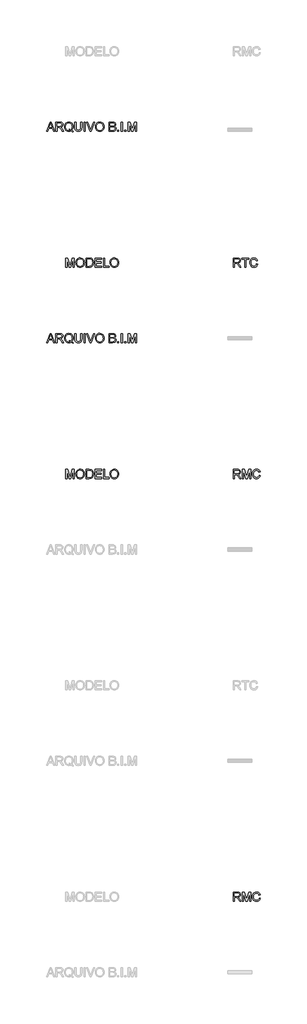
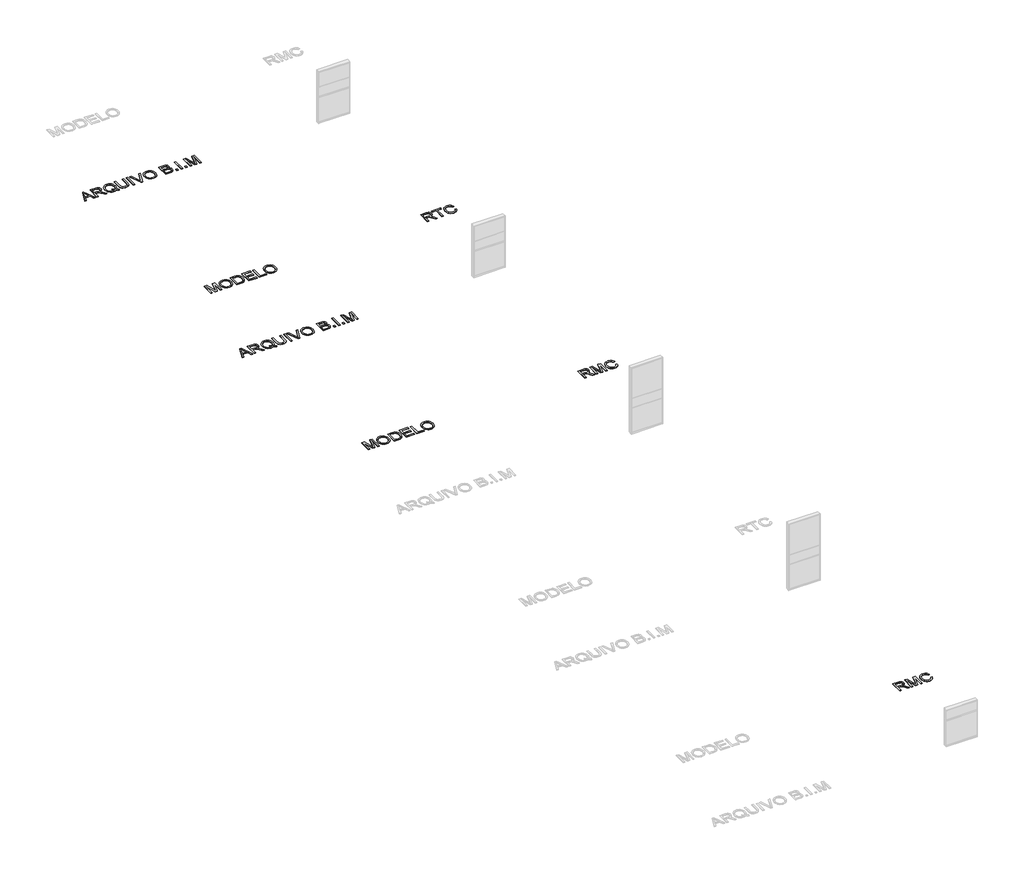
# One storey, part 12 of 15: 7 proxies.
"""IFC4 building model written with IfcOpenShell, lengths in millimetres."""

from ifc_helpers import new_model, si_unit, origin, origin_with_axes, place, context, project, spatial, polyline, outline, extrude, element, save

model = new_model("IFC4")

# Units and contexts
model_context = context("Model", 3, world=origin())
ifc_project = project(units=[si_unit("LENGTHUNIT", "METRE", prefix="MILLI")], contexts=[model_context])

# Site, building, storey
site = spatial("IfcSite", under=ifc_project)
building = spatial("IfcBuilding", under=site)
storey = spatial("IfcBuildingStorey", under=building, Name="Marelli - Linha REASONS - Planta Baixa", Elevation=0.0)

# Proxies
placement = place(None, origin())
element("IfcBuildingElementProxy", 1, Name="300mm Arial", ObjectType="300mm Arial", at=placement, inside=storey, context=model_context, shape_type="SweptSolid", body=[
    extrude(outline(polyline([(9390.580402, -28280.5663201), (9510.8778144, -27979.1973896), (9542.9571244, -27979.1973896), (9663.2545368, -28280.5663201), (9623.449705, -28280.5663201), (9588.9423738, -28186.3885293), (9464.8189886, -28186.3885293), (9430.3852339, -28280.5663201), (9390.580402, -28280.5663201)]), holes=[polyline([(9478.6513517, -28148.717413), (9575.1835872, -28148.717413), (9548.0338959, -28074.6259792), (9526.9174694, -28016.8685059), (9508.1554877, -28068.1512561), (9478.6513517, -28148.717413)])]), origin_with_axes(), (0.0, 0.0, 1.0), 10.0),
    extrude(outline(polyline([(9703.5008271, -28280.5663201), (9703.5008271, -27979.1973896), (9833.3631714, -27979.1973896), (9868.2659757, -27981.2299376), (9893.6590304, -27987.3275817), (9912.2186771, -27998.5847708), (9926.6212572, -28016.0959537), (9935.8642923, -28037.8101885), (9938.945304, -28061.6765329), (9933.8409413, -28091.3646099), (9918.5278533, -28115.9759154), (9906.9280741, -28126.0052983), (9892.5461874, -28134.0205273), (9855.4360911, -28144.0085235), (9876.8468232, -28160.1217548), (9907.3810288, -28198.8965171), (9957.6337094, -28280.5663201), (9913.855752, -28280.5663201), (9874.6395313, -28218.0999573), (9846.3126176, -28176.750021), (9826.4102017, -28157.2154871), (9808.4943485, -28150.0417882), (9786.642158, -28148.717413), (9741.1719434, -28148.717413), (9741.1719434, -28280.5663201), (9703.5008271, -28280.5663201)]), holes=[polyline([(9741.1719434, -28111.0462967), (9825.4904967, -28111.0462967), (9849.706329, -28109.7127245), (9868.4959019, -28105.7120078), (9882.6409647, -28098.7774322), (9892.9232664, -28088.6422832), (9899.1864574, -28076.3826157), (9901.2741877, -28063.0744845), (9897.2918651, -28044.6987789), (9885.3448973, -28029.8915286), (9864.7894908, -28020.1242616), (9834.9818522, -28016.8685059), (9741.1719434, -28016.8685059), (9741.1719434, -28111.0462967)])]), origin_with_axes(), (0.0, 0.0, 1.0), 10.0),
    extrude(outline(polyline([(10231.2643374, -28244.4403081), (10255.5997314, -28263.036743), (10277.9853508, -28275.8574305), (10267.8318077, -28303.4485802), (10236.7641732, -28289.0460001), (10205.8069033, -28268.205485), (10170.9500843, -28281.0077785), (10132.5983863, -28285.2752096), (10094.0627473, -28280.3547879), (10059.2427164, -28265.5935229), (10030.0788713, -28241.9203165), (10008.5117893, -28210.2640708), (9995.185264, -28172.3630282), (9990.7430889, -28129.9554312), (9995.176067, -28087.511046), (10008.4750011, -28049.0581805), (10029.9593096, -28016.9512794), (10058.9484108, -27993.5447874), (10093.639683, -27979.2525719), (10132.2305043, -27974.4885001), (10171.1248282, -27979.3629365), (10205.9908443, -27993.9862458), (10234.9339603, -28017.3835407), (10256.0595839, -28048.5799339), (10268.9722419, -28085.9199564), (10273.2764612, -28127.7481393), (10270.6644991, -28162.5313819), (10262.8286126, -28193.5990164), (10249.7136194, -28220.9142546), (10231.2643374, -28244.4403081)]), holes=[polyline([(10142.9726585, -28194.3347804), (10174.6472983, -28206.3093393), (10200.215097, -28222.9559996), (10215.6983305, -28205.4816049), (10226.7577829, -28184.1076609), (10233.3934544, -28158.8341679), (10235.6053449, -28129.6611256), (10232.478348, -28096.5057608), (10223.0973571, -28067.8201623), (10207.6922985, -28044.3308969), (10186.4930986, -28026.7645316), (10160.934497, -28015.8108452), (10132.4512335, -28012.1596164), (10110.966925, -28014.0059242), (10091.3956028, -28019.5448474), (10073.7372671, -28028.7763863), (10057.9919177, -28041.7005406), (10045.0516685, -28058.2897193), (10035.8086334, -28078.5163313), (10030.2628123, -28102.3803764), (10028.4142052, -28129.8818548), (10030.2421189, -28156.6659634), (10035.7258599, -28180.1437324), (10044.8654282, -28200.3151621), (10057.6608239, -28217.1802523), (10073.2981079, -28230.4906827), (10090.9633415, -28239.9981331), (10110.6565245, -28245.7026032), (10132.3776571, -28247.6040933), (10153.2917485, -28245.6727128), (10172.918253, -28239.8785714), (10153.6228423, -28229.853787), (10133.2605739, -28223.1767288), (10142.9726585, -28194.3347804)])]), origin_with_axes(), (0.0, 0.0, 1.0), 10.0),
    extrude(outline(polyline([(10527.5564963, -27979.1973896), (10565.2276126, -27979.1973896), (10565.2276126, -28153.0584205), (10562.6708327, -28193.7737604), (10555.0004931, -28225.1265034), (10540.6714894, -28249.3147446), (10518.1387172, -28268.5365788), (10487.3469942, -28281.0905519), (10448.2411381, -28285.2752096), (10409.9906077, -28281.6331779), (10379.4104168, -28270.7070826), (10356.4913685, -28252.8740029), (10341.2242657, -28228.5110178), (10332.6434182, -28195.8338995), (10329.7831357, -28153.0584205), (10329.7831357, -27979.1973896), (10367.454252, -27979.1973896), (10367.454252, -28151.7340454), (10369.3120561, -28185.588386), (10374.8854683, -28209.1604248), (10384.9838291, -28225.4851883), (10400.4164788, -28237.597703), (10420.5396239, -28245.1024957), (10444.709471, -28247.6040933), (10483.0243808, -28242.6560805), (10497.3671801, -28236.4710644), (10508.500209, -28227.812042), (10516.8373347, -28215.6351479), (10522.7924245, -28198.8965171), (10527.5564963, -28151.7340454), (10527.5564963, -27979.1973896)])), origin_with_axes(), (0.0, 0.0, 1.0), 10.0),
    extrude(outline(polyline([(10635.8609557, -28280.5663201), (10635.8609557, -27979.1973896), (10673.532072, -27979.1973896), (10673.532072, -28280.5663201), (10635.8609557, -28280.5663201)])), origin_with_axes(), (0.0, 0.0, 1.0), 10.0),
    extrude(outline(polyline([(10837.9017474, -28280.5663201), (10717.972217, -27979.1973896), (10758.2920837, -27979.1973896), (10838.563935, -28196.3213432), (10854.8243192, -28245.2496485), (10870.8639742, -28196.3213432), (10951.3565547, -27979.1973896), (10991.6764214, -27979.1973896), (10876.8236625, -28280.5663201), (10837.9017474, -28280.5663201)])), origin_with_axes(), (0.0, 0.0, 1.0), 10.0),
    extrude(outline(polyline([(11012.5721187, -28133.8549804), (11015.0829134, -28098.5061192), (11022.6152972, -28067.213157), (11035.1692703, -28039.9760937), (11052.7448326, -28016.7949295), (11074.288922, -27998.2858666), (11098.7484761, -27985.0651074), (11126.1234951, -27977.1326519), (11156.4139789, -27974.4885001), (11195.9428992, -27979.454907), (11231.3883295, -27994.3541278), (11260.8188891, -28018.1376988), (11282.3031976, -28049.7571563), (11295.4365848, -28087.68579), (11299.8143806, -28130.3968896), (11295.2066586, -28173.6782064), (11281.3834926, -28212.140269), (11259.1082378, -28243.8149088), (11229.1442493, -28266.733957), (11194.0023217, -28280.6398965), (11156.1932497, -28285.2752096), (11116.057324, -28280.1524528), (11080.4095587, -28264.7841825), (11051.0525754, -28240.5591531), (11029.7889961, -28208.8661192), (11016.8763381, -28172.3998164), (11012.5721187, -28133.8549804)]), holes=[polyline([(11050.2432351, -28134.2228624), (11052.126331, -28159.1974513), (11057.7756189, -28181.3669401), (11067.1910987, -28200.7313286), (11080.3727705, -28217.2906169), (11096.3963306, -28230.5527628), (11114.3374757, -28240.0257242), (11134.1962056, -28245.709501), (11155.9725205, -28247.6040933), (11178.1213158, -28245.6911069), (11198.2145706, -28239.9521478), (11216.2522846, -28230.3872159), (11232.2344581, -28216.9963113), (11245.3195608, -28200.0875351), (11254.6660627, -28179.9689885), (11260.2739639, -28156.6406715), (11262.1432643, -28130.102584), (11258.9426909, -28096.7540812), (11249.3409708, -28067.9305269), (11233.5864244, -28044.358488), (11211.9273719, -28026.7645316), (11185.7985532, -28015.8108452), (11156.6347081, -28012.1596164), (11135.6148506, -28013.9185522), (11116.1125063, -28019.1953595), (11098.1276752, -28027.9900385), (11081.6603574, -28040.302589), (11067.9153664, -28056.7262208), (11058.0975156, -28077.8541437), (11052.2068052, -28103.6863575), (11050.2432351, -28134.2228624)])]), origin_with_axes(), (0.0, 0.0, 1.0), 10.0),
    extrude(outline(polyline([(11469.334404, -28280.5663201), (11469.334404, -27979.1973896), (11584.3343157, -27979.1973896), (11615.9629702, -27981.4138786), (11640.6570491, -27988.0633457), (11659.5845778, -27999.3113377), (11673.9135815, -28015.3234015), (11682.9358874, -28034.1589597), (11685.9433227, -28053.8774346), (11683.414134, -28072.0232141), (11675.8265679, -28089.0837416), (11663.125442, -28104.0105535), (11645.2555741, -28115.7551862), (11666.6019268, -28126.9020107), (11682.3748674, -28143.8613707), (11692.1145432, -28165.5112261), (11695.3611018, -28190.7295368), (11693.1446128, -28211.7447958), (11686.4951457, -28231.2333445), (11676.5715289, -28247.8064284), (11664.5325906, -28260.0752929), (11649.7897196, -28268.9596431), (11631.7543048, -28275.3791839), (11583.4513989, -28280.5663201), (11469.334404, -28280.5663201)]), holes=[polyline([(11507.0055203, -28101.6285176), (11575.7994534, -28101.6285176), (11615.9721672, -28098.3911561), (11630.0344565, -28092.8085468), (11640.1420143, -28084.4484284), (11646.2396584, -28073.4395597), (11648.2722064, -28059.9106994), (11646.3776141, -28046.7773121), (11640.6938373, -28035.3361821), (11631.4783933, -28026.4058467), (11618.9887996, -28020.8048433), (11570.575529, -28016.8685059), (11507.0055203, -28016.8685059), (11507.0055203, -28101.6285176)]), polyline([(11507.0055203, -28242.8952038), (11584.2607393, -28242.8952038), (11612.2197709, -28241.4236758), (11635.8745832, -28233.2199073), (11651.5463562, -28216.4812765), (11656.1540782, -28204.6538704), (11657.6899855, -28191.0974188), (11655.8873637, -28175.3520694), (11650.4794984, -28161.814012), (11641.0341282, -28151.2282076), (11627.1189917, -28144.3396173), (11607.4097138, -28140.5596298), (11580.5819193, -28139.2996339), (11507.0055203, -28139.2996339), (11507.0055203, -28242.8952038)])]), origin_with_axes(), (0.0, 0.0, 1.0), 10.0),
    extrude(outline(polyline([(11751.8677763, -28280.5663201), (11751.8677763, -28242.8952038), (11789.5388926, -28242.8952038), (11789.5388926, -28280.5663201), (11751.8677763, -28280.5663201)])), origin_with_axes(), (0.0, 0.0, 1.0), 10.0),
    extrude(outline(polyline([(11869.5900147, -28280.5663201), (11869.5900147, -27979.1973896), (11907.261131, -27979.1973896), (11907.261131, -28280.5663201), (11869.5900147, -28280.5663201)])), origin_with_axes(), (0.0, 0.0, 1.0), 10.0),
    extrude(outline(polyline([(11987.3122532, -28280.5663201), (11987.3122532, -28242.8952038), (12024.9833695, -28242.8952038), (12024.9833695, -28280.5663201), (11987.3122532, -28280.5663201)])), origin_with_axes(), (0.0, 0.0, 1.0), 10.0),
    extrude(outline(polyline([(12100.3256021, -28280.5663201), (12100.3256021, -27979.1973896), (12165.1464096, -27979.1973896), (12226.803432, -28191.6124536), (12239.2378435, -28235.9790223), (12252.7023245, -28187.9336337), (12313.3292773, -27979.1973896), (12378.1500848, -27979.1973896), (12378.1500848, -28280.5663201), (12340.4789685, -28280.5663201), (12340.4789685, -28016.8685059), (12264.7688539, -28280.5663201), (12213.706833, -28280.5663201), (12137.9967184, -28016.8685059), (12137.9967184, -28280.5663201), (12100.3256021, -28280.5663201)])), origin_with_axes(), (0.0, 0.0, 1.0), 10.0),
])
element("IfcBuildingElementProxy", 2, Name="300mm Arial", ObjectType="300mm Arial", at=placement, inside=storey, context=model_context, shape_type="SweptSolid", body=[
    extrude(outline(polyline([(10033.1230948, -25780.5663201), (10033.1230948, -25479.1973896), (10097.9439023, -25479.1973896), (10159.6009247, -25691.6124536), (10172.0353362, -25735.9790223), (10185.4998172, -25687.9336337), (10246.12677, -25479.1973896), (10310.9475775, -25479.1973896), (10310.9475775, -25780.5663201), (10273.2764612, -25780.5663201), (10273.2764612, -25516.8685059), (10197.5663466, -25780.5663201), (10146.5043257, -25780.5663201), (10070.7942111, -25516.8685059), (10070.7942111, -25780.5663201), (10033.1230948, -25780.5663201)])), origin_with_axes(), (0.0, 0.0, 1.0), 10.0),
    extrude(outline(polyline([(10362.7453625, -25633.8549804), (10365.2561571, -25598.5061192), (10372.7885409, -25567.213157), (10385.342514, -25539.9760937), (10402.9180763, -25516.7949295), (10424.4621657, -25498.2858666), (10448.9217198, -25485.0651074), (10476.2967388, -25477.1326519), (10506.5872226, -25474.4885001), (10546.116143, -25479.454907), (10581.5615732, -25494.3541278), (10610.9921328, -25518.1376988), (10632.4764413, -25549.7571563), (10645.6098286, -25587.68579), (10649.9876243, -25630.3968896), (10645.3799023, -25673.6782064), (10631.5567363, -25712.140269), (10609.2814815, -25743.8149088), (10579.317493, -25766.733957), (10544.1755654, -25780.6398965), (10506.3664934, -25785.2752096), (10466.2305677, -25780.1524528), (10430.5828024, -25764.7841825), (10401.2258192, -25740.5591531), (10379.9622398, -25708.8661192), (10367.0495818, -25672.3998164), (10362.7453625, -25633.8549804)]), holes=[polyline([(10400.4164788, -25634.2228624), (10402.2995747, -25659.1974513), (10407.9488626, -25681.3669401), (10417.3643424, -25700.7313286), (10430.5460142, -25717.2906169), (10446.5695743, -25730.5527628), (10464.5107194, -25740.0257242), (10484.3694493, -25745.709501), (10506.1457642, -25747.6040933), (10528.2945596, -25745.6911069), (10548.3878143, -25739.9521478), (10566.4255284, -25730.3872159), (10582.4077018, -25716.9963113), (10595.4928045, -25700.0875351), (10604.8393064, -25679.9689885), (10610.4472076, -25656.6406715), (10612.316508, -25630.102584), (10609.1159346, -25596.7540812), (10599.5142146, -25567.9305269), (10583.7596681, -25544.358488), (10562.1006157, -25526.7645316), (10535.9717969, -25515.8108452), (10506.8079518, -25512.1596164), (10485.7880943, -25513.9185522), (10466.28575, -25519.1953595), (10448.300919, -25527.9900385), (10431.8336012, -25540.302589), (10418.0886101, -25556.7262208), (10408.2707594, -25577.8541437), (10402.3800489, -25603.6863575), (10400.4164788, -25634.2228624)])]), origin_with_axes(), (0.0, 0.0, 1.0), 10.0),
    extrude(outline(polyline([(10701.7854092, -25780.5663201), (10701.7854092, -25479.1973896), (10805.7488611, -25479.1973896), (10859.5332088, -25483.5383972), (10883.555903, -25491.9077126), (10903.826201, -25505.0962821), (10924.666716, -25528.0521186), (10939.5107545, -25556.5997614), (10948.3951047, -25590.1873876), (10951.3565547, -25628.2631741), (10949.3515979, -25660.6091985), (10943.3367273, -25689.0740679), (10934.1764656, -25713.3082943), (10922.7353355, -25732.9623899), (10909.5651601, -25748.477813), (10895.2177623, -25760.2960221), (10878.745846, -25769.0608107), (10859.202115, -25775.4159721), (10810.7520562, -25780.5663201), (10701.7854092, -25780.5663201)]), holes=[polyline([(10739.4565255, -25742.8952038), (10806.1167431, -25742.8952038), (10833.6894986, -25741.5340404), (10854.60359, -25737.4505502), (10870.3857276, -25730.8838566), (10882.5626217, -25722.0730828), (10895.6500236, -25705.7667134), (10905.48167, -25684.6594839), (10911.6344963, -25658.6594239), (10913.6854384, -25627.6745629), (10909.6663276, -25586.6189322), (10897.6089953, -25556.3054558), (10879.7943096, -25535.4833349), (10858.5031392, -25522.9017706), (10836.8348897, -25518.3768221), (10805.0866735, -25516.8685059), (10739.4565255, -25516.8685059), (10739.4565255, -25742.8952038)])]), origin_with_axes(), (0.0, 0.0, 1.0), 10.0),
    extrude(outline(polyline([(11003.1543397, -25780.5663201), (11003.1543397, -25479.1973896), (11219.7632584, -25479.1973896), (11219.7632584, -25516.8685059), (11040.825456, -25516.8685059), (11040.825456, -25606.3374072), (11210.3454794, -25606.3374072), (11210.3454794, -25644.0085235), (11040.825456, -25644.0085235), (11040.825456, -25742.8952038), (11224.472148, -25742.8952038), (11224.472148, -25780.5663201), (11003.1543397, -25780.5663201)])), origin_with_axes(), (0.0, 0.0, 1.0), 10.0),
    extrude(outline(polyline([(11280.9788224, -25780.5663201), (11280.9788224, -25479.1973896), (11318.6499387, -25479.1973896), (11318.6499387, -25742.8952038), (11469.334404, -25742.8952038), (11469.334404, -25780.5663201), (11280.9788224, -25780.5663201)])), origin_with_axes(), (0.0, 0.0, 1.0), 10.0),
    extrude(outline(polyline([(11497.5877412, -25633.8549804), (11500.0985358, -25598.5061192), (11507.6309197, -25567.213157), (11520.1848927, -25539.9760937), (11537.7604551, -25516.7949295), (11559.3045444, -25498.2858666), (11583.7640986, -25485.0651074), (11611.1391175, -25477.1326519), (11641.4296013, -25474.4885001), (11680.9585217, -25479.454907), (11716.4039519, -25494.3541278), (11745.8345115, -25518.1376988), (11767.3188201, -25549.7571563), (11780.4522073, -25587.68579), (11784.830003, -25630.3968896), (11780.222281, -25673.6782064), (11766.3991151, -25712.140269), (11744.1238603, -25743.8149088), (11714.1598717, -25766.733957), (11679.0179442, -25780.6398965), (11641.2088721, -25785.2752096), (11601.0729464, -25780.1524528), (11565.4251811, -25764.7841825), (11536.0681979, -25740.5591531), (11514.8046186, -25708.8661192), (11501.8919605, -25672.3998164), (11497.5877412, -25633.8549804)]), holes=[polyline([(11535.2588575, -25634.2228624), (11537.1419535, -25659.1974513), (11542.7912413, -25681.3669401), (11552.2067212, -25700.7313286), (11565.3883929, -25717.2906169), (11581.4119531, -25730.5527628), (11599.3530981, -25740.0257242), (11619.2118281, -25745.709501), (11640.9881429, -25747.6040933), (11663.1369383, -25745.6911069), (11683.230193, -25739.9521478), (11701.2679071, -25730.3872159), (11717.2500805, -25716.9963113), (11730.3351832, -25700.0875351), (11739.6816852, -25679.9689885), (11745.2895863, -25656.6406715), (11747.1588867, -25630.102584), (11743.9583134, -25596.7540812), (11734.3565933, -25567.9305269), (11718.6020468, -25544.358488), (11696.9429944, -25526.7645316), (11670.8141757, -25515.8108452), (11641.6503305, -25512.1596164), (11620.630473, -25513.9185522), (11601.1281287, -25519.1953595), (11583.1432977, -25527.9900385), (11566.6759799, -25540.302589), (11552.9309888, -25556.7262208), (11543.1131381, -25577.8541437), (11537.2224276, -25603.6863575), (11535.2588575, -25634.2228624)])]), origin_with_axes(), (0.0, 0.0, 1.0), 10.0),
])
element("IfcBuildingElementProxy", 3, Name="300mm Arial", ObjectType="300mm Arial", at=placement, inside=storey, context=model_context, shape_type="SweptSolid", body=[
    extrude(outline(polyline([(9390.580402, -21280.5663201), (9510.8778144, -20979.1973896), (9542.9571244, -20979.1973896), (9663.2545368, -21280.5663201), (9623.449705, -21280.5663201), (9588.9423738, -21186.3885293), (9464.8189886, -21186.3885293), (9430.3852339, -21280.5663201), (9390.580402, -21280.5663201)]), holes=[polyline([(9478.6513517, -21148.717413), (9575.1835872, -21148.717413), (9548.0338959, -21074.6259792), (9526.9174694, -21016.8685059), (9508.1554877, -21068.1512561), (9478.6513517, -21148.717413)])]), origin_with_axes(), (0.0, 0.0, 1.0), 10.0),
    extrude(outline(polyline([(9703.5008271, -21280.5663201), (9703.5008271, -20979.1973896), (9833.3631714, -20979.1973896), (9868.2659757, -20981.2299376), (9893.6590304, -20987.3275817), (9912.2186771, -20998.5847708), (9926.6212572, -21016.0959537), (9935.8642923, -21037.8101885), (9938.945304, -21061.6765329), (9933.8409413, -21091.3646099), (9918.5278533, -21115.9759154), (9906.9280741, -21126.0052983), (9892.5461874, -21134.0205273), (9855.4360911, -21144.0085235), (9876.8468232, -21160.1217548), (9907.3810288, -21198.8965171), (9957.6337094, -21280.5663201), (9913.855752, -21280.5663201), (9874.6395313, -21218.0999573), (9846.3126176, -21176.750021), (9826.4102017, -21157.2154871), (9808.4943485, -21150.0417882), (9786.642158, -21148.717413), (9741.1719434, -21148.717413), (9741.1719434, -21280.5663201), (9703.5008271, -21280.5663201)]), holes=[polyline([(9741.1719434, -21111.0462967), (9825.4904967, -21111.0462967), (9849.706329, -21109.7127245), (9868.4959019, -21105.7120078), (9882.6409647, -21098.7774322), (9892.9232664, -21088.6422832), (9899.1864574, -21076.3826157), (9901.2741877, -21063.0744845), (9897.2918651, -21044.6987789), (9885.3448973, -21029.8915286), (9864.7894908, -21020.1242616), (9834.9818522, -21016.8685059), (9741.1719434, -21016.8685059), (9741.1719434, -21111.0462967)])]), origin_with_axes(), (0.0, 0.0, 1.0), 10.0),
    extrude(outline(polyline([(10231.2643374, -21244.4403081), (10255.5997314, -21263.036743), (10277.9853508, -21275.8574305), (10267.8318077, -21303.4485802), (10236.7641732, -21289.0460001), (10205.8069033, -21268.205485), (10170.9500843, -21281.0077785), (10132.5983863, -21285.2752096), (10094.0627473, -21280.3547879), (10059.2427164, -21265.5935229), (10030.0788713, -21241.9203165), (10008.5117893, -21210.2640708), (9995.185264, -21172.3630282), (9990.7430889, -21129.9554312), (9995.176067, -21087.511046), (10008.4750011, -21049.0581805), (10029.9593096, -21016.9512794), (10058.9484108, -20993.5447874), (10093.639683, -20979.2525719), (10132.2305043, -20974.4885001), (10171.1248282, -20979.3629365), (10205.9908443, -20993.9862458), (10234.9339603, -21017.3835407), (10256.0595839, -21048.5799339), (10268.9722419, -21085.9199564), (10273.2764612, -21127.7481393), (10270.6644991, -21162.5313819), (10262.8286126, -21193.5990164), (10249.7136194, -21220.9142546), (10231.2643374, -21244.4403081)]), holes=[polyline([(10142.9726585, -21194.3347804), (10174.6472983, -21206.3093393), (10200.215097, -21222.9559996), (10215.6983305, -21205.4816049), (10226.7577829, -21184.1076609), (10233.3934544, -21158.8341679), (10235.6053449, -21129.6611256), (10232.478348, -21096.5057608), (10223.0973571, -21067.8201623), (10207.6922985, -21044.3308969), (10186.4930986, -21026.7645316), (10160.934497, -21015.8108452), (10132.4512335, -21012.1596164), (10110.966925, -21014.0059242), (10091.3956028, -21019.5448474), (10073.7372671, -21028.7763863), (10057.9919177, -21041.7005406), (10045.0516685, -21058.2897193), (10035.8086334, -21078.5163313), (10030.2628123, -21102.3803764), (10028.4142052, -21129.8818548), (10030.2421189, -21156.6659634), (10035.7258599, -21180.1437324), (10044.8654282, -21200.3151621), (10057.6608239, -21217.1802523), (10073.2981079, -21230.4906827), (10090.9633415, -21239.9981331), (10110.6565245, -21245.7026032), (10132.3776571, -21247.6040933), (10153.2917485, -21245.6727128), (10172.918253, -21239.8785714), (10153.6228423, -21229.853787), (10133.2605739, -21223.1767288), (10142.9726585, -21194.3347804)])]), origin_with_axes(), (0.0, 0.0, 1.0), 10.0),
    extrude(outline(polyline([(10527.5564963, -20979.1973896), (10565.2276126, -20979.1973896), (10565.2276126, -21153.0584205), (10562.6708327, -21193.7737604), (10555.0004931, -21225.1265034), (10540.6714894, -21249.3147446), (10518.1387172, -21268.5365788), (10487.3469942, -21281.0905519), (10448.2411381, -21285.2752096), (10409.9906077, -21281.6331779), (10379.4104168, -21270.7070826), (10356.4913685, -21252.8740029), (10341.2242657, -21228.5110178), (10332.6434182, -21195.8338995), (10329.7831357, -21153.0584205), (10329.7831357, -20979.1973896), (10367.454252, -20979.1973896), (10367.454252, -21151.7340454), (10369.3120561, -21185.588386), (10374.8854683, -21209.1604248), (10384.9838291, -21225.4851883), (10400.4164788, -21237.597703), (10420.5396239, -21245.1024957), (10444.709471, -21247.6040933), (10483.0243808, -21242.6560805), (10497.3671801, -21236.4710644), (10508.500209, -21227.812042), (10516.8373347, -21215.6351479), (10522.7924245, -21198.8965171), (10527.5564963, -21151.7340454), (10527.5564963, -20979.1973896)])), origin_with_axes(), (0.0, 0.0, 1.0), 10.0),
    extrude(outline(polyline([(10635.8609557, -21280.5663201), (10635.8609557, -20979.1973896), (10673.532072, -20979.1973896), (10673.532072, -21280.5663201), (10635.8609557, -21280.5663201)])), origin_with_axes(), (0.0, 0.0, 1.0), 10.0),
    extrude(outline(polyline([(10837.9017474, -21280.5663201), (10717.972217, -20979.1973896), (10758.2920837, -20979.1973896), (10838.563935, -21196.3213432), (10854.8243192, -21245.2496485), (10870.8639742, -21196.3213432), (10951.3565547, -20979.1973896), (10991.6764214, -20979.1973896), (10876.8236625, -21280.5663201), (10837.9017474, -21280.5663201)])), origin_with_axes(), (0.0, 0.0, 1.0), 10.0),
    extrude(outline(polyline([(11012.5721187, -21133.8549804), (11015.0829134, -21098.5061192), (11022.6152972, -21067.213157), (11035.1692703, -21039.9760937), (11052.7448326, -21016.7949295), (11074.288922, -20998.2858666), (11098.7484761, -20985.0651074), (11126.1234951, -20977.1326519), (11156.4139789, -20974.4885001), (11195.9428992, -20979.454907), (11231.3883295, -20994.3541278), (11260.8188891, -21018.1376988), (11282.3031976, -21049.7571563), (11295.4365848, -21087.68579), (11299.8143806, -21130.3968896), (11295.2066586, -21173.6782064), (11281.3834926, -21212.140269), (11259.1082378, -21243.8149088), (11229.1442493, -21266.733957), (11194.0023217, -21280.6398965), (11156.1932497, -21285.2752096), (11116.057324, -21280.1524528), (11080.4095587, -21264.7841825), (11051.0525754, -21240.5591531), (11029.7889961, -21208.8661192), (11016.8763381, -21172.3998164), (11012.5721187, -21133.8549804)]), holes=[polyline([(11050.2432351, -21134.2228624), (11052.126331, -21159.1974513), (11057.7756189, -21181.3669401), (11067.1910987, -21200.7313286), (11080.3727705, -21217.2906169), (11096.3963306, -21230.5527628), (11114.3374757, -21240.0257242), (11134.1962056, -21245.709501), (11155.9725205, -21247.6040933), (11178.1213158, -21245.6911069), (11198.2145706, -21239.9521478), (11216.2522846, -21230.3872159), (11232.2344581, -21216.9963113), (11245.3195608, -21200.0875351), (11254.6660627, -21179.9689885), (11260.2739639, -21156.6406715), (11262.1432643, -21130.102584), (11258.9426909, -21096.7540812), (11249.3409708, -21067.9305269), (11233.5864244, -21044.358488), (11211.9273719, -21026.7645316), (11185.7985532, -21015.8108452), (11156.6347081, -21012.1596164), (11135.6148506, -21013.9185522), (11116.1125063, -21019.1953595), (11098.1276752, -21027.9900385), (11081.6603574, -21040.302589), (11067.9153664, -21056.7262208), (11058.0975156, -21077.8541437), (11052.2068052, -21103.6863575), (11050.2432351, -21134.2228624)])]), origin_with_axes(), (0.0, 0.0, 1.0), 10.0),
    extrude(outline(polyline([(11469.334404, -21280.5663201), (11469.334404, -20979.1973896), (11584.3343157, -20979.1973896), (11615.9629702, -20981.4138786), (11640.6570491, -20988.0633457), (11659.5845778, -20999.3113377), (11673.9135815, -21015.3234015), (11682.9358874, -21034.1589597), (11685.9433227, -21053.8774346), (11683.414134, -21072.0232141), (11675.8265679, -21089.0837416), (11663.125442, -21104.0105535), (11645.2555741, -21115.7551862), (11666.6019268, -21126.9020107), (11682.3748674, -21143.8613707), (11692.1145432, -21165.5112261), (11695.3611018, -21190.7295368), (11693.1446128, -21211.7447958), (11686.4951457, -21231.2333445), (11676.5715289, -21247.8064284), (11664.5325906, -21260.0752929), (11649.7897196, -21268.9596431), (11631.7543048, -21275.3791839), (11583.4513989, -21280.5663201), (11469.334404, -21280.5663201)]), holes=[polyline([(11507.0055203, -21101.6285176), (11575.7994534, -21101.6285176), (11615.9721672, -21098.3911561), (11630.0344565, -21092.8085468), (11640.1420143, -21084.4484284), (11646.2396584, -21073.4395597), (11648.2722064, -21059.9106994), (11646.3776141, -21046.7773121), (11640.6938373, -21035.3361821), (11631.4783933, -21026.4058467), (11618.9887996, -21020.8048433), (11570.575529, -21016.8685059), (11507.0055203, -21016.8685059), (11507.0055203, -21101.6285176)]), polyline([(11507.0055203, -21242.8952038), (11584.2607393, -21242.8952038), (11612.2197709, -21241.4236758), (11635.8745832, -21233.2199073), (11651.5463562, -21216.4812765), (11656.1540782, -21204.6538704), (11657.6899855, -21191.0974188), (11655.8873637, -21175.3520694), (11650.4794984, -21161.814012), (11641.0341282, -21151.2282076), (11627.1189917, -21144.3396173), (11607.4097138, -21140.5596298), (11580.5819193, -21139.2996339), (11507.0055203, -21139.2996339), (11507.0055203, -21242.8952038)])]), origin_with_axes(), (0.0, 0.0, 1.0), 10.0),
    extrude(outline(polyline([(11751.8677763, -21280.5663201), (11751.8677763, -21242.8952038), (11789.5388926, -21242.8952038), (11789.5388926, -21280.5663201), (11751.8677763, -21280.5663201)])), origin_with_axes(), (0.0, 0.0, 1.0), 10.0),
    extrude(outline(polyline([(11869.5900147, -21280.5663201), (11869.5900147, -20979.1973896), (11907.261131, -20979.1973896), (11907.261131, -21280.5663201), (11869.5900147, -21280.5663201)])), origin_with_axes(), (0.0, 0.0, 1.0), 10.0),
    extrude(outline(polyline([(11987.3122532, -21280.5663201), (11987.3122532, -21242.8952038), (12024.9833695, -21242.8952038), (12024.9833695, -21280.5663201), (11987.3122532, -21280.5663201)])), origin_with_axes(), (0.0, 0.0, 1.0), 10.0),
    extrude(outline(polyline([(12100.3256021, -21280.5663201), (12100.3256021, -20979.1973896), (12165.1464096, -20979.1973896), (12226.803432, -21191.6124536), (12239.2378435, -21235.9790223), (12252.7023245, -21187.9336337), (12313.3292773, -20979.1973896), (12378.1500848, -20979.1973896), (12378.1500848, -21280.5663201), (12340.4789685, -21280.5663201), (12340.4789685, -21016.8685059), (12264.7688539, -21280.5663201), (12213.706833, -21280.5663201), (12137.9967184, -21016.8685059), (12137.9967184, -21280.5663201), (12100.3256021, -21280.5663201)])), origin_with_axes(), (0.0, 0.0, 1.0), 10.0),
])
element("IfcBuildingElementProxy", 4, Name="300mm Arial", ObjectType="300mm Arial", at=placement, inside=storey, context=model_context, shape_type="SweptSolid", body=[
    extrude(outline(polyline([(10033.1230948, -32780.5663201), (10033.1230948, -32479.1973896), (10097.9439023, -32479.1973896), (10159.6009247, -32691.6124536), (10172.0353362, -32735.9790223), (10185.4998172, -32687.9336337), (10246.12677, -32479.1973896), (10310.9475775, -32479.1973896), (10310.9475775, -32780.5663201), (10273.2764612, -32780.5663201), (10273.2764612, -32516.8685059), (10197.5663466, -32780.5663201), (10146.5043257, -32780.5663201), (10070.7942111, -32516.8685059), (10070.7942111, -32780.5663201), (10033.1230948, -32780.5663201)])), origin_with_axes(), (0.0, 0.0, 1.0), 10.0),
    extrude(outline(polyline([(10362.7453625, -32633.8549804), (10365.2561571, -32598.5061192), (10372.7885409, -32567.213157), (10385.342514, -32539.9760937), (10402.9180763, -32516.7949295), (10424.4621657, -32498.2858666), (10448.9217198, -32485.0651074), (10476.2967388, -32477.1326519), (10506.5872226, -32474.4885001), (10546.116143, -32479.454907), (10581.5615732, -32494.3541278), (10610.9921328, -32518.1376988), (10632.4764413, -32549.7571563), (10645.6098286, -32587.68579), (10649.9876243, -32630.3968896), (10645.3799023, -32673.6782064), (10631.5567363, -32712.140269), (10609.2814815, -32743.8149088), (10579.317493, -32766.733957), (10544.1755654, -32780.6398965), (10506.3664934, -32785.2752096), (10466.2305677, -32780.1524528), (10430.5828024, -32764.7841825), (10401.2258192, -32740.5591531), (10379.9622398, -32708.8661192), (10367.0495818, -32672.3998164), (10362.7453625, -32633.8549804)]), holes=[polyline([(10400.4164788, -32634.2228624), (10402.2995747, -32659.1974513), (10407.9488626, -32681.3669401), (10417.3643424, -32700.7313286), (10430.5460142, -32717.2906169), (10446.5695743, -32730.5527628), (10464.5107194, -32740.0257242), (10484.3694493, -32745.709501), (10506.1457642, -32747.6040933), (10528.2945596, -32745.6911069), (10548.3878143, -32739.9521478), (10566.4255284, -32730.3872159), (10582.4077018, -32716.9963113), (10595.4928045, -32700.0875351), (10604.8393064, -32679.9689885), (10610.4472076, -32656.6406715), (10612.316508, -32630.102584), (10609.1159346, -32596.7540812), (10599.5142146, -32567.9305269), (10583.7596681, -32544.358488), (10562.1006157, -32526.7645316), (10535.9717969, -32515.8108452), (10506.8079518, -32512.1596164), (10485.7880943, -32513.9185522), (10466.28575, -32519.1953595), (10448.300919, -32527.9900385), (10431.8336012, -32540.302589), (10418.0886101, -32556.7262208), (10408.2707594, -32577.8541437), (10402.3800489, -32603.6863575), (10400.4164788, -32634.2228624)])]), origin_with_axes(), (0.0, 0.0, 1.0), 10.0),
    extrude(outline(polyline([(10701.7854092, -32780.5663201), (10701.7854092, -32479.1973896), (10805.7488611, -32479.1973896), (10859.5332088, -32483.5383972), (10883.555903, -32491.9077126), (10903.826201, -32505.0962821), (10924.666716, -32528.0521186), (10939.5107545, -32556.5997614), (10948.3951047, -32590.1873876), (10951.3565547, -32628.2631741), (10949.3515979, -32660.6091985), (10943.3367273, -32689.0740679), (10934.1764656, -32713.3082943), (10922.7353355, -32732.9623899), (10909.5651601, -32748.477813), (10895.2177623, -32760.2960221), (10878.745846, -32769.0608107), (10859.202115, -32775.4159721), (10810.7520562, -32780.5663201), (10701.7854092, -32780.5663201)]), holes=[polyline([(10739.4565255, -32742.8952038), (10806.1167431, -32742.8952038), (10833.6894986, -32741.5340404), (10854.60359, -32737.4505502), (10870.3857276, -32730.8838566), (10882.5626217, -32722.0730828), (10895.6500236, -32705.7667134), (10905.48167, -32684.6594839), (10911.6344963, -32658.6594239), (10913.6854384, -32627.6745629), (10909.6663276, -32586.6189322), (10897.6089953, -32556.3054558), (10879.7943096, -32535.4833349), (10858.5031392, -32522.9017706), (10836.8348897, -32518.3768221), (10805.0866735, -32516.8685059), (10739.4565255, -32516.8685059), (10739.4565255, -32742.8952038)])]), origin_with_axes(), (0.0, 0.0, 1.0), 10.0),
    extrude(outline(polyline([(11003.1543397, -32780.5663201), (11003.1543397, -32479.1973896), (11219.7632584, -32479.1973896), (11219.7632584, -32516.8685059), (11040.825456, -32516.8685059), (11040.825456, -32606.3374072), (11210.3454794, -32606.3374072), (11210.3454794, -32644.0085235), (11040.825456, -32644.0085235), (11040.825456, -32742.8952038), (11224.472148, -32742.8952038), (11224.472148, -32780.5663201), (11003.1543397, -32780.5663201)])), origin_with_axes(), (0.0, 0.0, 1.0), 10.0),
    extrude(outline(polyline([(11280.9788224, -32780.5663201), (11280.9788224, -32479.1973896), (11318.6499387, -32479.1973896), (11318.6499387, -32742.8952038), (11469.334404, -32742.8952038), (11469.334404, -32780.5663201), (11280.9788224, -32780.5663201)])), origin_with_axes(), (0.0, 0.0, 1.0), 10.0),
    extrude(outline(polyline([(11497.5877412, -32633.8549804), (11500.0985358, -32598.5061192), (11507.6309197, -32567.213157), (11520.1848927, -32539.9760937), (11537.7604551, -32516.7949295), (11559.3045444, -32498.2858666), (11583.7640986, -32485.0651074), (11611.1391175, -32477.1326519), (11641.4296013, -32474.4885001), (11680.9585217, -32479.454907), (11716.4039519, -32494.3541278), (11745.8345115, -32518.1376988), (11767.3188201, -32549.7571563), (11780.4522073, -32587.68579), (11784.830003, -32630.3968896), (11780.222281, -32673.6782064), (11766.3991151, -32712.140269), (11744.1238603, -32743.8149088), (11714.1598717, -32766.733957), (11679.0179442, -32780.6398965), (11641.2088721, -32785.2752096), (11601.0729464, -32780.1524528), (11565.4251811, -32764.7841825), (11536.0681979, -32740.5591531), (11514.8046186, -32708.8661192), (11501.8919605, -32672.3998164), (11497.5877412, -32633.8549804)]), holes=[polyline([(11535.2588575, -32634.2228624), (11537.1419535, -32659.1974513), (11542.7912413, -32681.3669401), (11552.2067212, -32700.7313286), (11565.3883929, -32717.2906169), (11581.4119531, -32730.5527628), (11599.3530981, -32740.0257242), (11619.2118281, -32745.709501), (11640.9881429, -32747.6040933), (11663.1369383, -32745.6911069), (11683.230193, -32739.9521478), (11701.2679071, -32730.3872159), (11717.2500805, -32716.9963113), (11730.3351832, -32700.0875351), (11739.6816852, -32679.9689885), (11745.2895863, -32656.6406715), (11747.1588867, -32630.102584), (11743.9583134, -32596.7540812), (11734.3565933, -32567.9305269), (11718.6020468, -32544.358488), (11696.9429944, -32526.7645316), (11670.8141757, -32515.8108452), (11641.6503305, -32512.1596164), (11620.630473, -32513.9185522), (11601.1281287, -32519.1953595), (11583.1432977, -32527.9900385), (11566.6759799, -32540.302589), (11552.9309888, -32556.7262208), (11543.1131381, -32577.8541437), (11537.2224276, -32603.6863575), (11535.2588575, -32634.2228624)])]), origin_with_axes(), (0.0, 0.0, 1.0), 10.0),
])
element("IfcBuildingElementProxy", 5, Name="300mm Arial", ObjectType="300mm Arial", at=placement, inside=storey, context=model_context, shape_type="SweptSolid", body=[
    extrude(outline(polyline([(15588.7720603, -25780.5663201), (15588.7720603, -25479.1973896), (15718.6344046, -25479.1973896), (15753.5372089, -25481.2299376), (15778.9302636, -25487.3275817), (15797.4899103, -25498.5847708), (15811.8924904, -25516.0959537), (15821.1355255, -25537.8101885), (15824.2165372, -25561.6765329), (15819.1121745, -25591.3646099), (15803.7990865, -25615.9759154), (15792.1993073, -25626.0052983), (15777.8174206, -25634.0205273), (15740.7073243, -25644.0085235), (15762.1180564, -25660.1217548), (15792.652262, -25698.8965171), (15842.9049426, -25780.5663201), (15799.1269851, -25780.5663201), (15759.9107645, -25718.0999573), (15731.5838508, -25676.750021), (15711.6814349, -25657.2154871), (15693.7655817, -25650.0417882), (15671.9133912, -25648.717413), (15626.4431766, -25648.717413), (15626.4431766, -25780.5663201), (15588.7720603, -25780.5663201)]), holes=[polyline([(15626.4431766, -25611.0462967), (15710.7617299, -25611.0462967), (15734.9775622, -25609.7127245), (15753.7671351, -25605.7120078), (15767.9121979, -25598.7774322), (15778.1944996, -25588.6422832), (15784.4576906, -25576.3826157), (15786.5454209, -25563.0744845), (15782.5630983, -25544.6987789), (15770.6161305, -25529.8915286), (15750.060724, -25520.1242616), (15720.2530854, -25516.8685059), (15626.4431766, -25516.8685059), (15626.4431766, -25611.0462967)])]), origin_with_axes(), (0.0, 0.0, 1.0), 10.0),
    extrude(outline(polyline([(15965.4832234, -25780.5663201), (15965.4832234, -25516.8685059), (15866.5965431, -25516.8685059), (15866.5965431, -25479.1973896), (16102.04102, -25479.1973896), (16102.04102, -25516.8685059), (16003.1543397, -25516.8685059), (16003.1543397, -25780.5663201), (15965.4832234, -25780.5663201)])), origin_with_axes(), (0.0, 0.0, 1.0), 10.0),
    extrude(outline(polyline([(16356.321055, -25673.4390831), (16393.9921713, -25683.1511677), (16386.5379624, -25706.5783531), (16376.6097471, -25727.0486868), (16364.2075253, -25744.5621691), (16349.3312971, -25759.1187997), (16332.3167549, -25770.5622291), (16313.4995908, -25778.7361071), (16292.879805, -25783.640434), (16270.4573974, -25785.2752096), (16226.7622134, -25780.3271968), (16192.0617442, -25765.4831583), (16165.4638759, -25741.2581289), (16146.0764948, -25708.1671434), (16134.2398916, -25669.2636224), (16130.2943572, -25627.6009865), (16134.7549264, -25583.6574821), (16148.136634, -25545.7104543), (16169.7405041, -25514.9647166), (16198.8675611, -25492.6250824), (16233.4116805, -25479.0226457), (16271.2667378, -25474.4885001), (16312.5706888, -25480.3562179), (16330.539425, -25487.6908652), (16346.719335, -25497.9593714), (16360.8437043, -25510.8904235), (16372.6458186, -25526.2127086), (16389.2832818, -25564.0309777), (16351.6121655, -25573.0072984), (16338.5523547, -25545.5357104), (16320.7100779, -25526.6909552), (16297.864606, -25515.7924511), (16269.7952098, -25512.1596164), (16237.4399883, -25516.1879242), (16210.8605141, -25528.2728478), (16190.6913838, -25547.1451941), (16177.5671936, -25571.5357704), (16170.3659035, -25599.1085259), (16167.9654735, -25627.5274101), (16170.8073619, -25662.3290468), (16179.3330272, -25692.421794), (16193.864366, -25716.6560205), (16214.7232751, -25733.8820949), (16239.7300537, -25744.1735937), (16266.705001, -25747.6040933), (16298.1497146, -25742.931992), (16324.3521097, -25728.9156879), (16344.1349639, -25705.702334), (16356.321055, -25673.4390831)])), origin_with_axes(), (0.0, 0.0, 1.0), 10.0),
])
element("IfcBuildingElementProxy", 6, Name="300mm Arial", ObjectType="300mm Arial", at=placement, inside=storey, context=model_context, shape_type="SweptSolid", body=[
    extrude(outline(polyline([(15588.7720603, -32780.5663201), (15588.7720603, -32479.1973896), (15718.6344046, -32479.1973896), (15753.5372089, -32481.2299376), (15778.9302636, -32487.3275817), (15797.4899103, -32498.5847708), (15811.8924904, -32516.0959537), (15821.1355255, -32537.8101885), (15824.2165372, -32561.6765329), (15819.1121745, -32591.3646099), (15803.7990865, -32615.9759154), (15792.1993073, -32626.0052983), (15777.8174206, -32634.0205273), (15740.7073243, -32644.0085235), (15762.1180564, -32660.1217548), (15792.652262, -32698.8965171), (15842.9049426, -32780.5663201), (15799.1269851, -32780.5663201), (15759.9107645, -32718.0999573), (15731.5838508, -32676.750021), (15711.6814349, -32657.2154871), (15693.7655817, -32650.0417882), (15671.9133912, -32648.717413), (15626.4431766, -32648.717413), (15626.4431766, -32780.5663201), (15588.7720603, -32780.5663201)]), holes=[polyline([(15626.4431766, -32611.0462967), (15710.7617299, -32611.0462967), (15734.9775622, -32609.7127245), (15753.7671351, -32605.7120078), (15767.9121979, -32598.7774322), (15778.1944996, -32588.6422832), (15784.4576906, -32576.3826157), (15786.5454209, -32563.0744845), (15782.5630983, -32544.6987789), (15770.6161305, -32529.8915286), (15750.060724, -32520.1242616), (15720.2530854, -32516.8685059), (15626.4431766, -32516.8685059), (15626.4431766, -32611.0462967)])]), origin_with_axes(), (0.0, 0.0, 1.0), 10.0),
    extrude(outline(polyline([(15890.1409908, -32780.5663201), (15890.1409908, -32479.1973896), (15954.9617983, -32479.1973896), (16016.6188207, -32691.6124536), (16029.0532321, -32735.9790223), (16042.5177132, -32687.9336337), (16103.144666, -32479.1973896), (16167.9654735, -32479.1973896), (16167.9654735, -32780.5663201), (16130.2943572, -32780.5663201), (16130.2943572, -32516.8685059), (16054.5842426, -32780.5663201), (16003.5222217, -32780.5663201), (15927.8121071, -32516.8685059), (15927.8121071, -32780.5663201), (15890.1409908, -32780.5663201)])), origin_with_axes(), (0.0, 0.0, 1.0), 10.0),
    extrude(outline(polyline([(16445.7899563, -32673.4390831), (16483.4610726, -32683.1511677), (16476.0068636, -32706.5783531), (16466.0786483, -32727.0486868), (16453.6764265, -32744.5621691), (16438.8001984, -32759.1187997), (16421.7856561, -32770.5622291), (16402.968492, -32778.7361071), (16382.3487062, -32783.640434), (16359.9262986, -32785.2752096), (16316.2311146, -32780.3271968), (16281.5306454, -32765.4831583), (16254.9327772, -32741.2581289), (16235.545396, -32708.1671434), (16223.7087928, -32669.2636224), (16219.7632584, -32627.6009865), (16224.2238276, -32583.6574821), (16237.6055352, -32545.7104543), (16259.2094054, -32514.9647166), (16288.3364623, -32492.6250824), (16322.8805817, -32479.0226457), (16360.735639, -32474.4885001), (16402.03959, -32480.3562179), (16420.0083262, -32487.6908652), (16436.1882362, -32497.9593714), (16450.3126055, -32510.8904235), (16462.1147198, -32526.2127086), (16478.752183, -32564.0309777), (16441.0810667, -32573.0072984), (16428.0212559, -32545.5357104), (16410.1789791, -32526.6909552), (16387.3335072, -32515.7924511), (16359.264111, -32512.1596164), (16326.9088895, -32516.1879242), (16300.3294154, -32528.2728478), (16280.160285, -32547.1451941), (16267.0360948, -32571.5357704), (16259.8348048, -32599.1085259), (16257.4343747, -32627.5274101), (16260.2762631, -32662.3290468), (16268.8019284, -32692.421794), (16283.3332672, -32716.6560205), (16304.1921763, -32733.8820949), (16329.1989549, -32744.1735937), (16356.1739022, -32747.6040933), (16387.6186158, -32742.931992), (16413.8210109, -32728.9156879), (16433.6038652, -32705.702334), (16445.7899563, -32673.4390831)])), origin_with_axes(), (0.0, 0.0, 1.0), 10.0),
])
element("IfcBuildingElementProxy", 7, Name="300mm Arial", ObjectType="300mm Arial", at=placement, inside=storey, context=model_context, shape_type="SweptSolid", body=[
    extrude(outline(polyline([(15588.7720603, -46780.5663201), (15588.7720603, -46479.1973896), (15718.6344046, -46479.1973896), (15753.5372089, -46481.2299376), (15778.9302636, -46487.3275817), (15797.4899103, -46498.5847708), (15811.8924904, -46516.0959537), (15821.1355255, -46537.8101885), (15824.2165372, -46561.6765329), (15819.1121745, -46591.3646099), (15803.7990865, -46615.9759154), (15792.1993073, -46626.0052983), (15777.8174206, -46634.0205273), (15740.7073243, -46644.0085235), (15762.1180564, -46660.1217548), (15792.652262, -46698.8965171), (15842.9049426, -46780.5663201), (15799.1269851, -46780.5663201), (15759.9107645, -46718.0999573), (15731.5838508, -46676.750021), (15711.6814349, -46657.2154871), (15693.7655817, -46650.0417882), (15671.9133912, -46648.717413), (15626.4431766, -46648.717413), (15626.4431766, -46780.5663201), (15588.7720603, -46780.5663201)]), holes=[polyline([(15626.4431766, -46611.0462967), (15710.7617299, -46611.0462967), (15734.9775622, -46609.7127245), (15753.7671351, -46605.7120078), (15767.9121979, -46598.7774322), (15778.1944996, -46588.6422832), (15784.4576906, -46576.3826157), (15786.5454209, -46563.0744845), (15782.5630983, -46544.6987789), (15770.6161305, -46529.8915286), (15750.060724, -46520.1242616), (15720.2530854, -46516.8685059), (15626.4431766, -46516.8685059), (15626.4431766, -46611.0462967)])]), origin_with_axes(), (0.0, 0.0, 1.0), 10.0),
    extrude(outline(polyline([(15890.1409908, -46780.5663201), (15890.1409908, -46479.1973896), (15954.9617983, -46479.1973896), (16016.6188207, -46691.6124536), (16029.0532321, -46735.9790223), (16042.5177132, -46687.9336337), (16103.144666, -46479.1973896), (16167.9654735, -46479.1973896), (16167.9654735, -46780.5663201), (16130.2943572, -46780.5663201), (16130.2943572, -46516.8685059), (16054.5842426, -46780.5663201), (16003.5222217, -46780.5663201), (15927.8121071, -46516.8685059), (15927.8121071, -46780.5663201), (15890.1409908, -46780.5663201)])), origin_with_axes(), (0.0, 0.0, 1.0), 10.0),
    extrude(outline(polyline([(16445.7899563, -46673.4390831), (16483.4610726, -46683.1511677), (16476.0068636, -46706.5783531), (16466.0786483, -46727.0486868), (16453.6764265, -46744.5621691), (16438.8001984, -46759.1187997), (16421.7856561, -46770.5622291), (16402.968492, -46778.7361071), (16382.3487062, -46783.640434), (16359.9262986, -46785.2752096), (16316.2311146, -46780.3271968), (16281.5306454, -46765.4831583), (16254.9327772, -46741.2581289), (16235.545396, -46708.1671434), (16223.7087928, -46669.2636224), (16219.7632584, -46627.6009865), (16224.2238276, -46583.6574821), (16237.6055352, -46545.7104543), (16259.2094054, -46514.9647166), (16288.3364623, -46492.6250824), (16322.8805817, -46479.0226457), (16360.735639, -46474.4885001), (16402.03959, -46480.3562179), (16420.0083262, -46487.6908652), (16436.1882362, -46497.9593714), (16450.3126055, -46510.8904235), (16462.1147198, -46526.2127086), (16478.752183, -46564.0309777), (16441.0810667, -46573.0072984), (16428.0212559, -46545.5357104), (16410.1789791, -46526.6909552), (16387.3335072, -46515.7924511), (16359.264111, -46512.1596164), (16326.9088895, -46516.1879242), (16300.3294154, -46528.2728478), (16280.160285, -46547.1451941), (16267.0360948, -46571.5357704), (16259.8348048, -46599.1085259), (16257.4343747, -46627.5274101), (16260.2762631, -46662.3290468), (16268.8019284, -46692.421794), (16283.3332672, -46716.6560205), (16304.1921763, -46733.8820949), (16329.1989549, -46744.1735937), (16356.1739022, -46747.6040933), (16387.6186158, -46742.931992), (16413.8210109, -46728.9156879), (16433.6038652, -46705.702334), (16445.7899563, -46673.4390831)])), origin_with_axes(), (0.0, 0.0, 1.0), 10.0),
])

save(model, "model.ifc")
